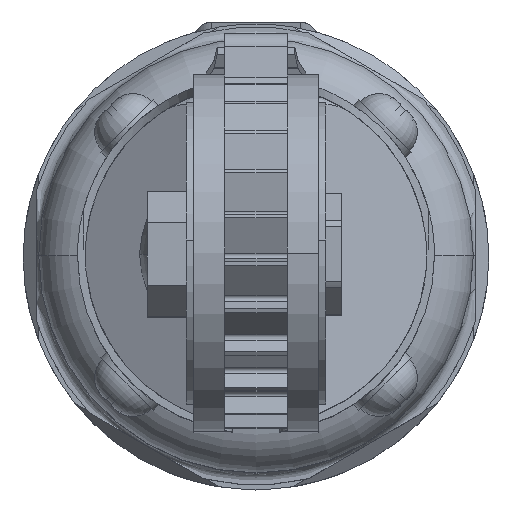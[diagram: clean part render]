
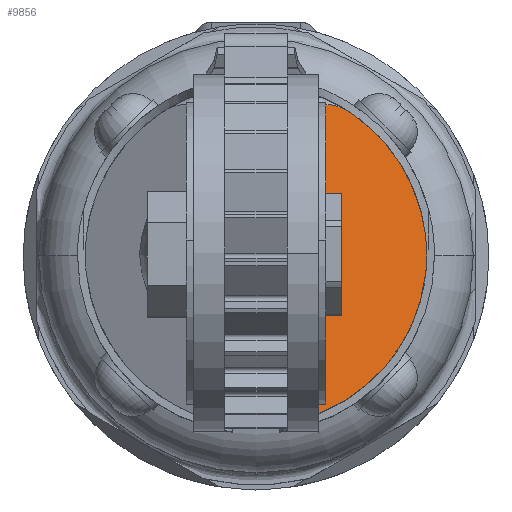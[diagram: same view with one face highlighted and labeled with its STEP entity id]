
A CAD part, top view. The second image highlights one B-rep face of the part: STEP entity #9856.
In plain terms, the highlighted planar face has unit normal (0.447, 0, 0.894).
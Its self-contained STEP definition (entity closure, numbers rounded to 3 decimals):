
#35 = VERTEX_POINT ( 'NONE', #17850 ) ;
#9554 = EDGE_CURVE ( 'NONE', #9555, #35, #18977, .T. ) ;
#9555 = VERTEX_POINT ( 'NONE', #19012 ) ;
#9574 = VERTEX_POINT ( 'NONE', #19071 ) ;
#9675 = EDGE_CURVE ( 'NONE', #9676, #9574, #19209, .T. ) ;
#9676 = VERTEX_POINT ( 'NONE', #19205 ) ;
#9856 = ADVANCED_FACE ( 'NONE', ( #19512 ), #19548, .F. ) ;
#9857 = EDGE_LOOP ( 'NONE', ( #9858, #9859, #9861, #9915, #9918, #9920, #9921 ) ) ;
#9858 = ORIENTED_EDGE ( 'NONE', *, *, #9554, .T. ) ;
#9859 = ORIENTED_EDGE ( 'NONE', *, *, #9860, .T. ) ;
#9860 = EDGE_CURVE ( 'NONE', #35, #17478, #19543, .T. ) ;
#9861 = ORIENTED_EDGE ( 'NONE', *, *, #17483, .T. ) ;
#9915 = ORIENTED_EDGE ( 'NONE', *, *, #9916, .T. ) ;
#9916 = EDGE_CURVE ( 'NONE', #17484, #9917, #19627, .T. ) ;
#9917 = VERTEX_POINT ( 'NONE', #19582 ) ;
#9918 = ORIENTED_EDGE ( 'NONE', *, *, #9919, .T. ) ;
#9919 = EDGE_CURVE ( 'NONE', #9917, #9676, #19622, .T. ) ;
#9920 = ORIENTED_EDGE ( 'NONE', *, *, #9675, .T. ) ;
#9921 = ORIENTED_EDGE ( 'NONE', *, *, #9922, .T. ) ;
#9922 = EDGE_CURVE ( 'NONE', #9574, #9555, #19620, .T. ) ;
#17478 = VERTEX_POINT ( 'NONE', #29107 ) ;
#17483 = EDGE_CURVE ( 'NONE', #17478, #17484, #29096, .T. ) ;
#17484 = VERTEX_POINT ( 'NONE', #29098 ) ;
#17850 = CARTESIAN_POINT ( 'NONE',  ( 21.885, -2.248, -110.442 ) ) ;
#18977 =( BOUNDED_CURVE ( )  B_SPLINE_CURVE ( 3, ( #19016, #19015, #19014, #19013 ),
 .UNSPECIFIED., .F., .T. ) 
 B_SPLINE_CURVE_WITH_KNOTS ( ( 4, 4 ),
 ( 1.943, 3.039 ),
 .UNSPECIFIED. ) 
 CURVE ( )  GEOMETRIC_REPRESENTATION_ITEM ( )  RATIONAL_B_SPLINE_CURVE ( ( 1., 0.902, 0.902, 1. ) ) 
 REPRESENTATION_ITEM ( '' )  );
#19012 = CARTESIAN_POINT ( 'NONE',  ( 8., -20.494, -103.5 ) ) ;
#19013 = CARTESIAN_POINT ( 'NONE',  ( 21.885, -2.248, -110.442 ) ) ;
#19014 = CARTESIAN_POINT ( 'NONE',  ( 21.019, -10.674, -110.01 ) ) ;
#19015 = CARTESIAN_POINT ( 'NONE',  ( 15.89, -17.414, -107.445 ) ) ;
#19016 = CARTESIAN_POINT ( 'NONE',  ( 8., -20.494, -103.5 ) ) ;
#19071 = CARTESIAN_POINT ( 'NONE',  ( 8., 11., -103.5 ) ) ;
#19205 = CARTESIAN_POINT ( 'NONE',  ( 8., 18.33, -103.5 ) ) ;
#19206 = DIRECTION ( 'NONE',  ( 0., -1., 0. ) ) ;
#19207 = VECTOR ( 'NONE', #19206, 1000. ) ;
#19208 = CARTESIAN_POINT ( 'NONE',  ( 8., 0., -103.5 ) ) ;
#19209 = LINE ( 'NONE', #19208, #19207 ) ;
#19512 = FACE_OUTER_BOUND ( 'NONE', #9857, .T. ) ;
#19539 = CARTESIAN_POINT ( 'NONE',  ( 22., 0., -110.5 ) ) ;
#19540 = CARTESIAN_POINT ( 'NONE',  ( 22., -0.751, -110.5 ) ) ;
#19541 = CARTESIAN_POINT ( 'NONE',  ( 21.962, -1.501, -110.481 ) ) ;
#19542 = CARTESIAN_POINT ( 'NONE',  ( 21.885, -2.248, -110.442 ) ) ;
#19543 =( BOUNDED_CURVE ( )  B_SPLINE_CURVE ( 3, ( #19542, #19541, #19540, #19539 ),
 .UNSPECIFIED., .F., .F. ) 
 B_SPLINE_CURVE_WITH_KNOTS ( ( 4, 4 ),
 ( 3.039, 3.142 ),
 .UNSPECIFIED. ) 
 CURVE ( )  GEOMETRIC_REPRESENTATION_ITEM ( )  RATIONAL_B_SPLINE_CURVE ( ( 1., 0.999, 0.999, 1. ) ) 
 REPRESENTATION_ITEM ( '' )  );
#19544 = DIRECTION ( 'NONE',  ( -0.894, 0., 0.447 ) ) ;
#19545 = DIRECTION ( 'NONE',  ( -0.447, 0., -0.894 ) ) ;
#19546 = CARTESIAN_POINT ( 'NONE',  ( 4., -23., -101.5 ) ) ;
#19547 = AXIS2_PLACEMENT_3D ( 'NONE', #19546, #19545, #19544 ) ;
#19548 = PLANE ( 'NONE',  #19547 ) ;
#19582 = CARTESIAN_POINT ( 'NONE',  ( 12., 18.439, -105.5 ) ) ;
#19601 = CARTESIAN_POINT ( 'NONE',  ( 8.015, 18.549, -103.508 ) ) ;
#19602 = CARTESIAN_POINT ( 'NONE',  ( 8.084, 18.754, -103.542 ) ) ;
#19603 = CARTESIAN_POINT ( 'NONE',  ( 8.137, 18.848, -103.568 ) ) ;
#19604 = CARTESIAN_POINT ( 'NONE',  ( 8.269, 19.008, -103.634 ) ) ;
#19605 = CARTESIAN_POINT ( 'NONE',  ( 8.346, 19.073, -103.673 ) ) ;
#19606 = CARTESIAN_POINT ( 'NONE',  ( 8.516, 19.182, -103.758 ) ) ;
#19607 = CARTESIAN_POINT ( 'NONE',  ( 8.606, 19.223, -103.803 ) ) ;
#19608 = CARTESIAN_POINT ( 'NONE',  ( 8.886, 19.321, -103.943 ) ) ;
#19609 = CARTESIAN_POINT ( 'NONE',  ( 9.076, 19.349, -104.038 ) ) ;
#19610 = CARTESIAN_POINT ( 'NONE',  ( 9.459, 19.364, -104.23 ) ) ;
#19611 = CARTESIAN_POINT ( 'NONE',  ( 9.654, 19.35, -104.327 ) ) ;
#19612 = CARTESIAN_POINT ( 'NONE',  ( 10.228, 19.264, -104.614 ) ) ;
#19613 = CARTESIAN_POINT ( 'NONE',  ( 10.604, 19.147, -104.802 ) ) ;
#19614 = CARTESIAN_POINT ( 'NONE',  ( 11.321, 18.844, -105.16 ) ) ;
#19615 = CARTESIAN_POINT ( 'NONE',  ( 11.666, 18.656, -105.333 ) ) ;
#19617 = DIRECTION ( 'NONE',  ( 0., -1., 0. ) ) ;
#19618 = VECTOR ( 'NONE', #19617, 1000. ) ;
#19619 = CARTESIAN_POINT ( 'NONE',  ( 8., 0., -103.5 ) ) ;
#19620 = LINE ( 'NONE', #19619, #19618 ) ;
#19621 = CARTESIAN_POINT ( 'NONE',  ( 12., 18.439, -105.5 ) ) ;
#19622 = B_SPLINE_CURVE_WITH_KNOTS ( 'NONE', 3,
 ( #19621, #19615, #19614, #19613, #19612, #19611, #19610, #19609, #19608, #19607, #19606, #19605, #19604, #19603, #19602, #19601, #19660, #19659 ),
 .UNSPECIFIED., .F., .F.,
 ( 4, 2, 2, 2, 2, 2, 2, 2, 4 ),
 ( 0., 0.001, 0.003, 0.003, 0.004, 0.004, 0.004, 0.005, 0.005 ),
 .UNSPECIFIED. ) ;
#19623 = CARTESIAN_POINT ( 'NONE',  ( 12., 18.439, -105.5 ) ) ;
#19624 = CARTESIAN_POINT ( 'NONE',  ( 17.642, 14.767, -108.321 ) ) ;
#19625 = CARTESIAN_POINT ( 'NONE',  ( 21.161, 9.029, -110.081 ) ) ;
#19626 = CARTESIAN_POINT ( 'NONE',  ( 21.876, 2.335, -110.438 ) ) ;
#19627 =( BOUNDED_CURVE ( )  B_SPLINE_CURVE ( 3, ( #19626, #19625, #19624, #19623 ),
 .UNSPECIFIED., .F., .T. ) 
 B_SPLINE_CURVE_WITH_KNOTS ( ( 4, 4 ),
 ( 3.248, 4.135 ),
 .UNSPECIFIED. ) 
 CURVE ( )  GEOMETRIC_REPRESENTATION_ITEM ( )  RATIONAL_B_SPLINE_CURVE ( ( 1., 0.935, 0.935, 1. ) ) 
 REPRESENTATION_ITEM ( '' )  );
#19659 = CARTESIAN_POINT ( 'NONE',  ( 8., 18.33, -103.5 ) ) ;
#19660 = CARTESIAN_POINT ( 'NONE',  ( 8., 18.44, -103.5 ) ) ;
#29092 = CARTESIAN_POINT ( 'NONE',  ( 21.876, 2.335, -110.438 ) ) ;
#29093 = CARTESIAN_POINT ( 'NONE',  ( 21.959, 1.559, -110.479 ) ) ;
#29094 = CARTESIAN_POINT ( 'NONE',  ( 22., 0.78, -110.5 ) ) ;
#29095 = CARTESIAN_POINT ( 'NONE',  ( 22., 0., -110.5 ) ) ;
#29096 =( BOUNDED_CURVE ( )  B_SPLINE_CURVE ( 3, ( #29095, #29094, #29093, #29092 ),
 .UNSPECIFIED., .F., .T. ) 
 B_SPLINE_CURVE_WITH_KNOTS ( ( 4, 4 ),
 ( 3.142, 3.248 ),
 .UNSPECIFIED. ) 
 CURVE ( )  GEOMETRIC_REPRESENTATION_ITEM ( )  RATIONAL_B_SPLINE_CURVE ( ( 1., 0.999, 0.999, 1. ) ) 
 REPRESENTATION_ITEM ( '' )  );
#29098 = CARTESIAN_POINT ( 'NONE',  ( 21.876, 2.335, -110.438 ) ) ;
#29107 = CARTESIAN_POINT ( 'NONE',  ( 22., 0., -110.5 ) ) ;
